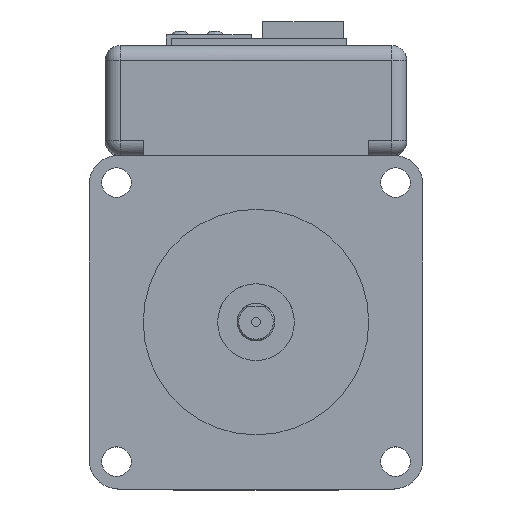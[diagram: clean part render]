
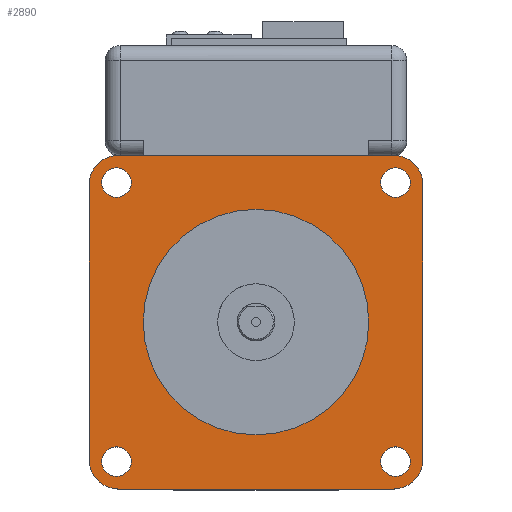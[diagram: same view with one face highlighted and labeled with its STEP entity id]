
A CAD part, top view. The second image highlights one B-rep face of the part: STEP entity #2890.
In plain terms, the highlighted planar face has unit normal (0, 0, 1).
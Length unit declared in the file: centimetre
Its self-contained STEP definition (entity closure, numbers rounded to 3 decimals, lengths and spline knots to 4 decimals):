
#261=CARTESIAN_POINT('',(2.32,-2.32,9.24));
#262=DIRECTION('',(0.,0.,1.));
#263=DIRECTION('',(0.,-1.,0.));
#264=AXIS2_PLACEMENT_3D('',#261,#262,#263);
#266=DIRECTION('',(1.,0.,0.));
#267=VECTOR('',#266,4.64);
#268=CARTESIAN_POINT('',(-2.32,-2.82,9.24));
#269=LINE('',#268,#267);
#270=CARTESIAN_POINT('',(-2.32,-2.32,9.24));
#271=DIRECTION('',(0.,0.,1.));
#272=DIRECTION('',(-1.,0.,0.));
#273=AXIS2_PLACEMENT_3D('',#270,#271,#272);
#275=DIRECTION('',(0.,-1.,0.));
#276=VECTOR('',#275,4.64);
#277=CARTESIAN_POINT('',(-2.82,2.32,9.24));
#278=LINE('',#277,#276);
#279=CARTESIAN_POINT('',(-2.32,2.32,9.24));
#280=DIRECTION('',(0.,0.,1.));
#281=DIRECTION('',(0.,1.,0.));
#282=AXIS2_PLACEMENT_3D('',#279,#280,#281);
#284=DIRECTION('',(-1.,0.,0.));
#285=VECTOR('',#284,4.64);
#286=CARTESIAN_POINT('',(2.32,2.82,9.24));
#287=LINE('',#286,#285);
#288=CARTESIAN_POINT('',(2.32,2.32,9.24));
#289=DIRECTION('',(0.,0.,1.));
#290=DIRECTION('',(1.,0.,0.));
#291=AXIS2_PLACEMENT_3D('',#288,#289,#290);
#293=DIRECTION('',(0.,1.,0.));
#294=VECTOR('',#293,4.64);
#295=CARTESIAN_POINT('',(2.82,-2.32,9.24));
#296=LINE('',#295,#294);
#297=CARTESIAN_POINT('',(0.,0.,9.24));
#298=DIRECTION('',(0.,0.,-1.));
#299=DIRECTION('',(1.,0.,0.));
#300=AXIS2_PLACEMENT_3D('',#297,#298,#299);
#302=CARTESIAN_POINT('',(0.,0.,9.24));
#303=DIRECTION('',(0.,0.,-1.));
#304=DIRECTION('',(-1.,0.,0.));
#305=AXIS2_PLACEMENT_3D('',#302,#303,#304);
#307=CARTESIAN_POINT('',(2.357,2.357,9.24));
#308=DIRECTION('',(0.,0.,-1.));
#309=DIRECTION('',(-1.,0.,0.));
#310=AXIS2_PLACEMENT_3D('',#307,#308,#309);
#312=CARTESIAN_POINT('',(2.357,2.357,9.24));
#313=DIRECTION('',(0.,0.,-1.));
#314=DIRECTION('',(1.,0.,0.));
#315=AXIS2_PLACEMENT_3D('',#312,#313,#314);
#317=CARTESIAN_POINT('',(-2.357,-2.357,9.24));
#318=DIRECTION('',(0.,0.,-1.));
#319=DIRECTION('',(-1.,0.,0.));
#320=AXIS2_PLACEMENT_3D('',#317,#318,#319);
#322=CARTESIAN_POINT('',(-2.357,-2.357,9.24));
#323=DIRECTION('',(0.,0.,-1.));
#324=DIRECTION('',(1.,0.,0.));
#325=AXIS2_PLACEMENT_3D('',#322,#323,#324);
#327=CARTESIAN_POINT('',(2.357,-2.357,9.24));
#328=DIRECTION('',(0.,0.,-1.));
#329=DIRECTION('',(-1.,0.,0.));
#330=AXIS2_PLACEMENT_3D('',#327,#328,#329);
#332=CARTESIAN_POINT('',(2.357,-2.357,9.24));
#333=DIRECTION('',(0.,0.,-1.));
#334=DIRECTION('',(1.,0.,0.));
#335=AXIS2_PLACEMENT_3D('',#332,#333,#334);
#337=CARTESIAN_POINT('',(-2.357,2.357,9.24));
#338=DIRECTION('',(0.,0.,-1.));
#339=DIRECTION('',(-1.,0.,0.));
#340=AXIS2_PLACEMENT_3D('',#337,#338,#339);
#342=CARTESIAN_POINT('',(-2.357,2.357,9.24));
#343=DIRECTION('',(0.,0.,-1.));
#344=DIRECTION('',(1.,0.,0.));
#345=AXIS2_PLACEMENT_3D('',#342,#343,#344);
#1906=CARTESIAN_POINT('',(-2.32,2.82,9.24));
#1907=VERTEX_POINT('',#1906);
#1908=CARTESIAN_POINT('',(2.32,2.82,9.24));
#1909=VERTEX_POINT('',#1908);
#2059=CARTESIAN_POINT('',(2.32,-2.82,9.24));
#2060=CARTESIAN_POINT('',(2.82,-2.32,9.24));
#2061=VERTEX_POINT('',#2059);
#2062=VERTEX_POINT('',#2060);
#2069=CARTESIAN_POINT('',(-2.32,-2.82,9.24));
#2070=VERTEX_POINT('',#2069);
#2075=CARTESIAN_POINT('',(2.82,2.32,9.24));
#2076=VERTEX_POINT('',#2075);
#2077=CARTESIAN_POINT('',(-2.82,2.32,9.24));
#2078=VERTEX_POINT('',#2077);
#2079=CARTESIAN_POINT('',(-2.82,-2.32,9.24));
#2080=VERTEX_POINT('',#2079);
#2353=CARTESIAN_POINT('',(-1.905,0.,9.24));
#2355=VERTEX_POINT('',#2353);
#2357=CARTESIAN_POINT('',(1.905,0.,9.24));
#2359=VERTEX_POINT('',#2357);
#2362=CARTESIAN_POINT('',(-2.607,2.357,9.24));
#2364=VERTEX_POINT('',#2362);
#2366=CARTESIAN_POINT('',(-2.107,2.357,9.24));
#2368=VERTEX_POINT('',#2366);
#2370=CARTESIAN_POINT('',(2.107,-2.357,9.24));
#2372=VERTEX_POINT('',#2370);
#2374=CARTESIAN_POINT('',(2.607,-2.357,9.24));
#2376=VERTEX_POINT('',#2374);
#2378=CARTESIAN_POINT('',(-2.607,-2.357,9.24));
#2380=VERTEX_POINT('',#2378);
#2382=CARTESIAN_POINT('',(-2.107,-2.357,9.24));
#2384=VERTEX_POINT('',#2382);
#2386=CARTESIAN_POINT('',(2.107,2.357,9.24));
#2388=VERTEX_POINT('',#2386);
#2390=CARTESIAN_POINT('',(2.607,2.357,9.24));
#2392=VERTEX_POINT('',#2390);
#2839=CARTESIAN_POINT('',(0.,0.,9.24));
#2840=DIRECTION('',(0.,0.,1.));
#2841=DIRECTION('',(1.,0.,0.));
#2842=AXIS2_PLACEMENT_3D('',#2839,#2840,#2841);
#2843=PLANE('',#2842);
#2845=ORIENTED_EDGE('',*,*,#2844,.F.);
#2847=ORIENTED_EDGE('',*,*,#2846,.F.);
#2849=ORIENTED_EDGE('',*,*,#2848,.F.);
#2851=ORIENTED_EDGE('',*,*,#2850,.F.);
#2853=ORIENTED_EDGE('',*,*,#2852,.F.);
#2854=ORIENTED_EDGE('',*,*,#2787,.F.);
#2855=ORIENTED_EDGE('',*,*,#2830,.F.);
#2857=ORIENTED_EDGE('',*,*,#2856,.F.);
#2858=EDGE_LOOP('',(#2845,#2847,#2849,#2851,#2853,#2854,#2855,#2857));
#2859=FACE_OUTER_BOUND('',#2858,.F.);
#2861=ORIENTED_EDGE('',*,*,#2860,.F.);
#2863=ORIENTED_EDGE('',*,*,#2862,.F.);
#2864=EDGE_LOOP('',(#2861,#2863));
#2865=FACE_BOUND('',#2864,.F.);
#2867=ORIENTED_EDGE('',*,*,#2866,.F.);
#2869=ORIENTED_EDGE('',*,*,#2868,.F.);
#2870=EDGE_LOOP('',(#2867,#2869));
#2871=FACE_BOUND('',#2870,.F.);
#2873=ORIENTED_EDGE('',*,*,#2872,.F.);
#2875=ORIENTED_EDGE('',*,*,#2874,.F.);
#2876=EDGE_LOOP('',(#2873,#2875));
#2877=FACE_BOUND('',#2876,.F.);
#2879=ORIENTED_EDGE('',*,*,#2878,.F.);
#2881=ORIENTED_EDGE('',*,*,#2880,.F.);
#2882=EDGE_LOOP('',(#2879,#2881));
#2883=FACE_BOUND('',#2882,.F.);
#2885=ORIENTED_EDGE('',*,*,#2884,.F.);
#2887=ORIENTED_EDGE('',*,*,#2886,.F.);
#2888=EDGE_LOOP('',(#2885,#2887));
#2889=FACE_BOUND('',#2888,.F.);
#2890=ADVANCED_FACE('',(#2859,#2865,#2871,#2877,#2883,#2889),#2843,.T.);
#265=CIRCLE('',#264,0.5);
#274=CIRCLE('',#273,0.5);
#283=CIRCLE('',#282,0.5);
#292=CIRCLE('',#291,0.5);
#301=CIRCLE('',#300,1.905);
#306=CIRCLE('',#305,1.905);
#311=CIRCLE('',#310,0.25);
#316=CIRCLE('',#315,0.25);
#321=CIRCLE('',#320,0.25);
#326=CIRCLE('',#325,0.25);
#331=CIRCLE('',#330,0.25);
#336=CIRCLE('',#335,0.25);
#341=CIRCLE('',#340,0.25);
#346=CIRCLE('',#345,0.25);
#2787=EDGE_CURVE('',#1909,#1907,#287,.T.);
#2830=EDGE_CURVE('',#2076,#1909,#292,.T.);
#2844=EDGE_CURVE('',#2061,#2062,#265,.T.);
#2846=EDGE_CURVE('',#2070,#2061,#269,.T.);
#2848=EDGE_CURVE('',#2080,#2070,#274,.T.);
#2850=EDGE_CURVE('',#2078,#2080,#278,.T.);
#2852=EDGE_CURVE('',#1907,#2078,#283,.T.);
#2856=EDGE_CURVE('',#2062,#2076,#296,.T.);
#2860=EDGE_CURVE('',#2359,#2355,#301,.T.);
#2862=EDGE_CURVE('',#2355,#2359,#306,.T.);
#2866=EDGE_CURVE('',#2388,#2392,#311,.T.);
#2868=EDGE_CURVE('',#2392,#2388,#316,.T.);
#2872=EDGE_CURVE('',#2380,#2384,#321,.T.);
#2874=EDGE_CURVE('',#2384,#2380,#326,.T.);
#2878=EDGE_CURVE('',#2372,#2376,#331,.T.);
#2880=EDGE_CURVE('',#2376,#2372,#336,.T.);
#2884=EDGE_CURVE('',#2364,#2368,#341,.T.);
#2886=EDGE_CURVE('',#2368,#2364,#346,.T.);
